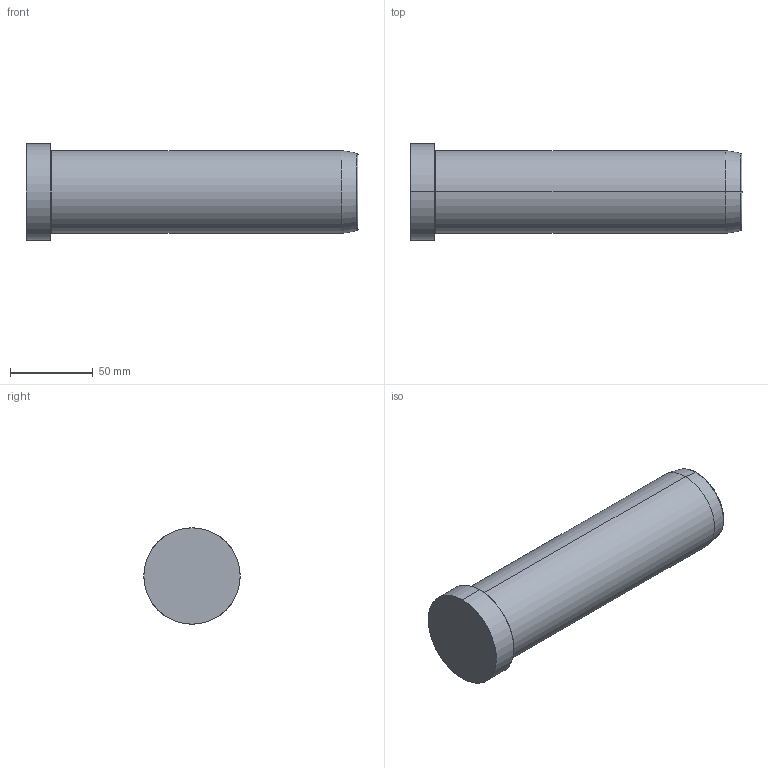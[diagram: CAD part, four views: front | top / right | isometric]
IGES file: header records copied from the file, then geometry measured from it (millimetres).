
Start section: SolidWorks IGES FILE using analytic representation for surfaces
Global section: file name: D:\zzzzz\Delta\D01 D\50\D01 D - 50x200.IGS; native system: SolidWorks 2004 by SolidWorks Corporation; preprocessor: Version 5.3; author: Hkn; date: 080327.145746; units: millimetre
Bounding box: 200 x 58 x 58 mm (x, y, z)
Surface area: 36813.7 mm2 (no closed solid volume)
Topology: 0 solids, 0 shells, 14 faces, 424 edges, 424 vertices
Faces by surface type: revolution 8, bspline 6
